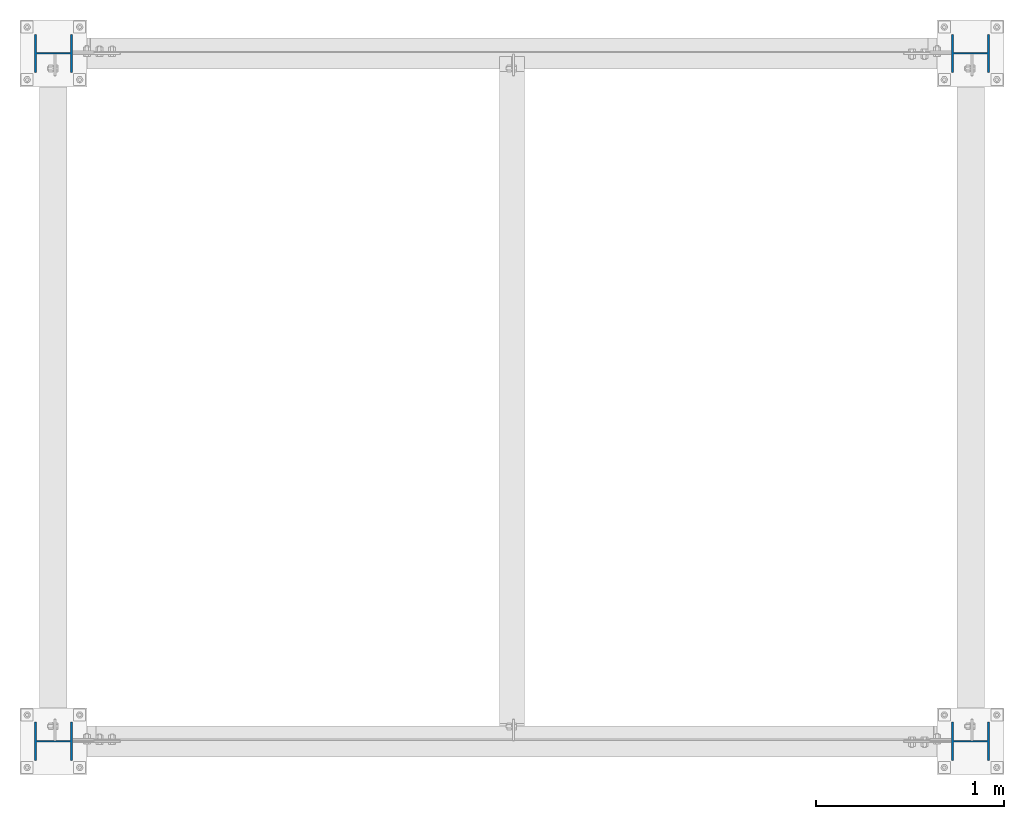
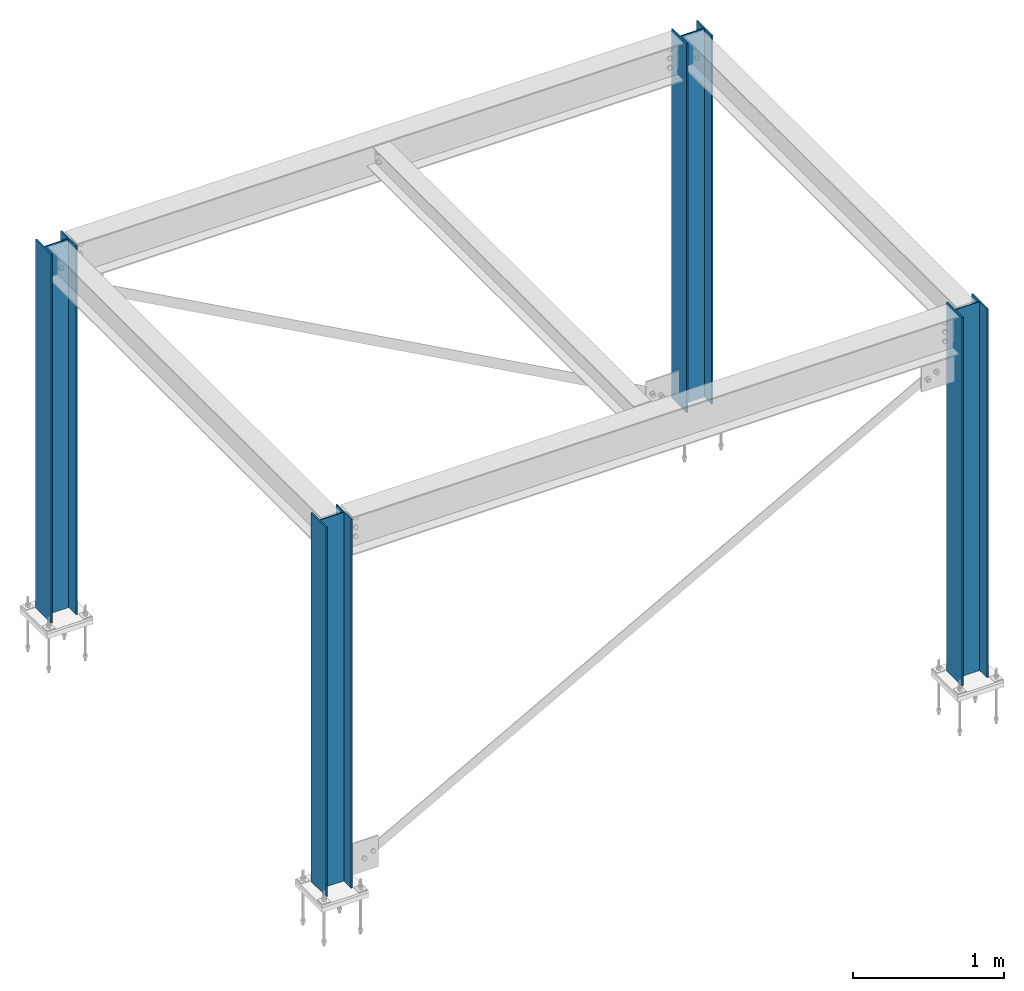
# One storey, part 1 of 5: 4 columns.
"""IFC4 building model written with IfcOpenShell, lengths in millimetres."""

from ifc_helpers import new_model, si_unit, direction, frame, origin_with_axes, place, context, subcontext, project, spatial, line, indexed_curve, outline, extrude, material, element, save


model = new_model("IFC4")

# Units and contexts
model_context = context("Model", 3, precision=0.2, world=origin_with_axes(), true_north=direction((0.0, 1.0)))
body_context = subcontext(model_context, "Body", "Model", "MODEL_VIEW")
ifc_project = project(units=[si_unit("LENGTHUNIT", "METRE", prefix="MILLI"), si_unit("AREAUNIT", "SQUARE_METRE"), si_unit("VOLUMEUNIT", "CUBIC_METRE"), si_unit("MASSUNIT", "GRAM", prefix="KILO"), si_unit("TIMEUNIT", "SECOND"), si_unit("PLANEANGLEUNIT", "RADIAN"), si_unit("SOLIDANGLEUNIT", "STERADIAN"), si_unit("THERMODYNAMICTEMPERATUREUNIT", "DEGREE_CELSIUS"), si_unit("LUMINOUSINTENSITYUNIT", "LUMEN")], contexts=[model_context])

# Site, building, storey
site_placement = place(None, origin_with_axes())
site = spatial("IfcSite", under=ifc_project, at=site_placement, Name="Unknown", CompositionType="ELEMENT")
building_placement = place(site_placement, origin_with_axes())
building = spatial("IfcBuilding", under=site, at=building_placement, Name="Unknown", CompositionType="ELEMENT")
storey_placement = place(building_placement, origin_with_axes())
storey = spatial("IfcBuildingStorey", under=building, at=storey_placement, Name="Unknown", CompositionType="ELEMENT", Elevation=0.0)

# Columns
ifc_material = material(Name="A992", Category="STEEL")
for number, where, z_axis, x_axis, name in (
    (1, (0.0, 0.0, 57.15), (0.0, -1.0, 0.0), (0.0, 0.0, 1.0), "COLUMN"),
    (2, (4876.8, 0.0, 57.15), (0.0, -1.0, 0.0), (0.0, 0.0, 1.0), "COLUMN"),
    (3, (0.0, 3657.6, 57.15), (0.0, -1.0, 0.0), (0.0, 0.0, 1.0), "COLUMN"),
    (4, (4876.8, 3657.6, 57.15), (0.0, -1.0, 0.0), (0.0, 0.0, 1.0), "COLUMN"),
):
    element("IfcColumn", number, at=place(storey_placement, frame(where, z_axis=z_axis, x_axis=x_axis)), inside=storey, material=ifc_material, Name=name, PredefinedType="NOTDEFINED", context=body_context, shape_type="SolidModel", body=[
        extrude(outline(indexed_curve([(-101.6, -101.6), (101.6, -101.6), (101.6, -90.4875), (3.96875, -90.4875), (3.96875, 90.4875), (101.6, 90.4875), (101.6, 101.6), (-101.6, 101.6), (-101.6, 90.4875), (-3.96875, 90.4875), (-3.96875, -90.4875), (-101.6, -90.4875)], segments=[line(1, 2, 3, 4, 5, 6, 7, 8, 9, 10, 11, 12, 1)])), frame((0.0, 0.0, 0.0), z_axis=(-1.0, 0.0, 0.0), x_axis=(0.0, 0.0, 1.0)), (0.0, 0.0, -1.0), 2990.85),
    ])

save(model, "model.ifc")
